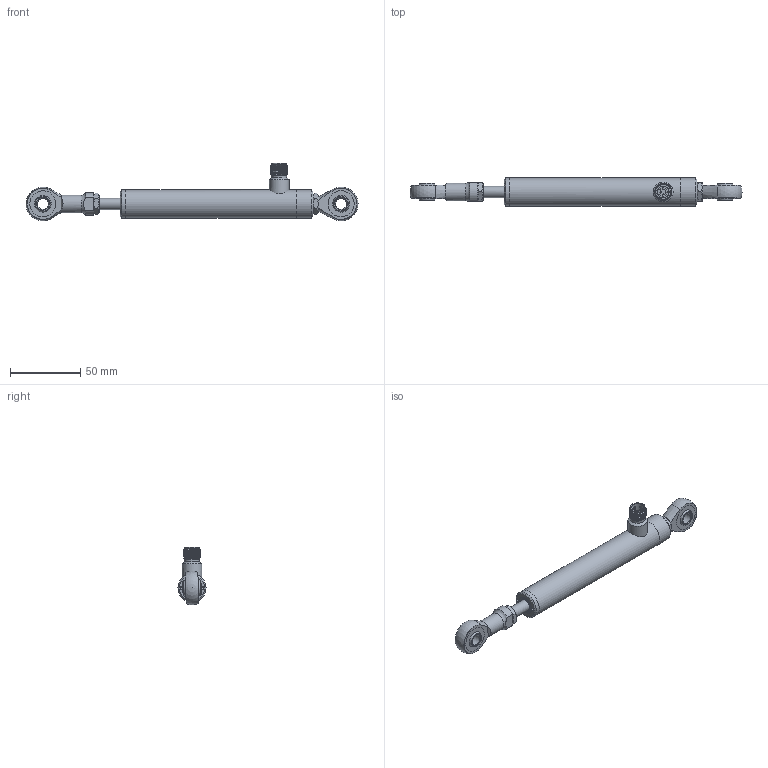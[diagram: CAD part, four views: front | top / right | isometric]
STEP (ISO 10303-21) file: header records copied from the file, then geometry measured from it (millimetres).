
FILE_DESCRIPTION( ( 'STEP AP214' ), '1' );
FILE_NAME( 'N:/Engineering/CAD_Solid/LVDT/SL/Kunden-3D-Modell/SL25-G-SR.stp', '2011-12-12T15:03:32', ( ' ' ), ( ' ' ), 'XStep 1.0', ' ', ' ' );
FILE_SCHEMA( ( 'CONFIG_CONTROL_DESIGN) ( )' ) );
Length unit declared in the file: metre
Products named in the file (9): 1; 2; 3; 4; 5; 6; 7; 8; 9
Bounding box: 236 x 20 x 40.99 mm (x, y, z)
Volume: 1908.6 mm3; surface area: 19395.7 mm2
Topology: 2 solids, 98 shells, 110 faces, 472 edges, 424 vertices
Faces by surface type: plane 44, cylinder 30, cone 25, sphere 6, bspline 4, torus 1
Full cylindrical faces by diameter (mm): 2 x4, 8 x3, 10.5 x1, 12 x1, 12.5 x1, 14 x1, 20 x3
Entity records: 9896 total; most frequent: CARTESIAN_POINT 5656, DIRECTION 709, ORIENTED_EDGE 401, EDGE_CURVE 389, VERTEX_POINT 389, AXIS2_PLACEMENT_3D 302, CIRCLE 185, EDGE_LOOP 169
